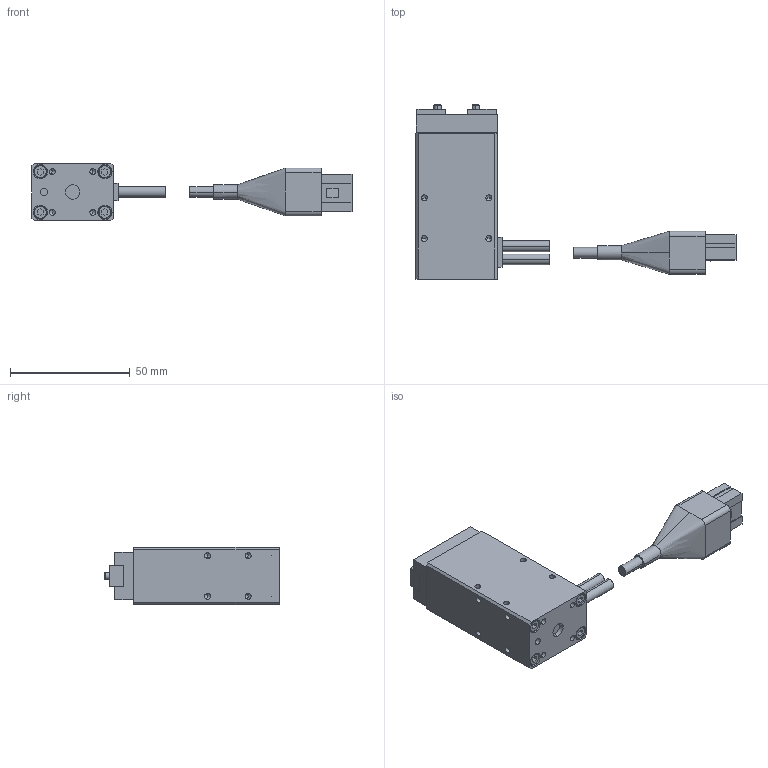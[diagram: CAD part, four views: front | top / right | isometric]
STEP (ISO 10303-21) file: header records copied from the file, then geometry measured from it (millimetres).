
FILE_DESCRIPTION (( 'STEP AP214' ), '1' );
FILE_NAME ('ESG1-SS-2010.STEP', '2009-02-12T08:29:03', ( '風音庵' ), ( '' ), 'SwSTEP 2.0', 'SolidWorks 2007', '' );
FILE_SCHEMA (( 'AUTOMOTIVE_DESIGN' ));
Length unit declared in the file: millimetre
Products named in the file (6): ESG1-SS-2010; CONNECTOR　DK-2100D-12R_ﾃﾞﾌｫﾙﾄ; CNNECTOR丂BB丂ASSY_棉太倌; ESG1-SS-2010 FINGER_蹬怮椔; ESG1-SS-2010 BODY_蹬怮椔; CONNECTOR COVER　BB_ﾃﾞﾌｫﾙﾄ
Assembly tree (6 placements, depth 3):
  ESG1-SS-2010
    ESG1-SS-2010 FINGER_蹬怮椔  x2
    CNNECTOR丂BB丂ASSY_棉太倌
      CONNECTOR COVER　BB_ﾃﾞﾌｫﾙﾄ
      CONNECTOR　DK-2100D-12R_ﾃﾞﾌｫﾙﾄ
    ESG1-SS-2010 BODY_蹬怮椔
Bounding box: 133.89 x 73 x 24 mm (x, y, z)
Volume: 62802.4 mm3; surface area: 19887.2 mm2
Topology: 5 solids, 5 shells, 338 faces, 818 edges, 506 vertices
Faces by surface type: plane 200, cylinder 84, cone 52, bspline 2
Entity records: 13208 total; most frequent: CARTESIAN_POINT 2007, DIRECTION 1578, ORIENTED_EDGE 1500, EDGE_CURVE 750, VECTOR 576, LINE 576, AXIS2_PLACEMENT_3D 501, VERTEX_POINT 488
